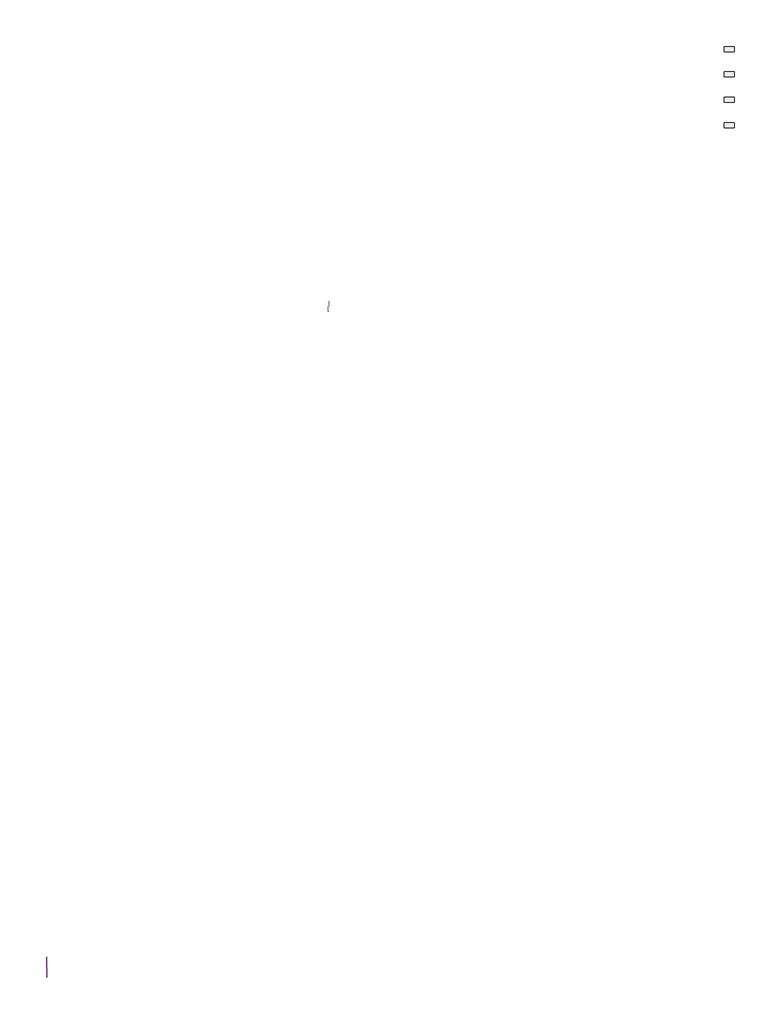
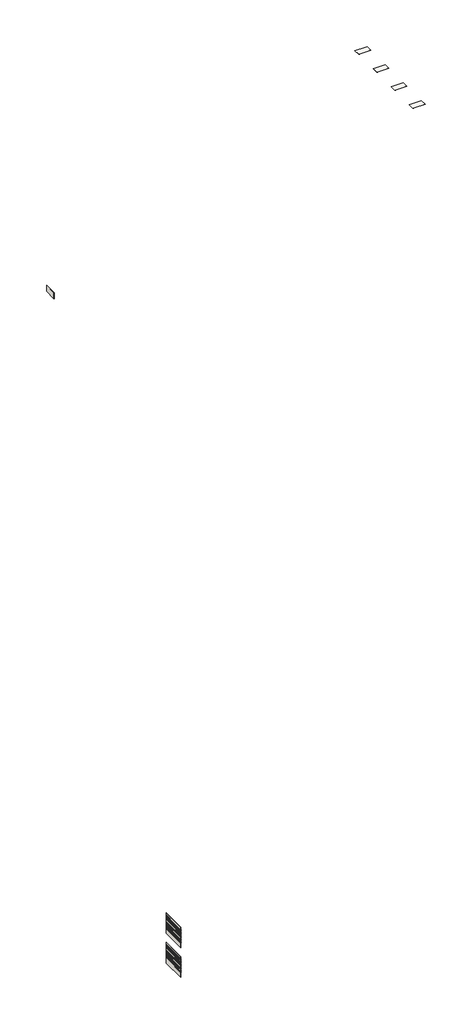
# One storey: 24 proxies, 4 slabs, 3 walls.
"""IFC4 building model written with IfcOpenShell, lengths in millimetres."""

import ifcopenshell
import ifcopenshell.guid

model = None  # the IFC model being written
_history = None  # IfcOwnerHistory: only IFC2X3 demands one
_inside = {}  # id of a spatial element -> (the spatial element, [elements in it])
_under = {}  # id of a project, library or spatial element -> (it, [spatial elements below it])
_declared = {}  # id of a project -> (the project, [libraries it declares])
_typed = {}  # id of a type object -> (the type object, [elements of that type])
_made_of = {}  # id of a material, layer set ... -> (it, [elements and type objects made of it])


def new_model(schema):
    """Start an empty IFC model of exactly this schema.

    Asked for "IFC4X3", IfcOpenShell would pick the latest addendum, in which some entities
    have other attributes; the version numbers below select the first issue.
    IFC2X3 requires an IfcOwnerHistory on every rooted entity: one is made here for all.
    """
    global model, _history
    if schema == "IFC4X3":
        model = ifcopenshell.file(schema_version=(4, 3, 0, 0))
    else:
        model = ifcopenshell.file(schema=schema)
    _inside.clear()
    _under.clear()
    _declared.clear()
    _typed.clear()
    _made_of.clear()
    _history = None
    if model.schema == "IFC2X3":
        org = make("IfcOrganization", Name="unknown")
        user = make(
            "IfcPersonAndOrganization",
            ThePerson=make("IfcPerson", FamilyName="unknown"),
            TheOrganization=org,
        )
        app = make(
            "IfcApplication",
            ApplicationDeveloper=org,
            Version="unknown",
            ApplicationFullName="unknown",
            ApplicationIdentifier="unknown",
        )
        _history = make(
            "IfcOwnerHistory",
            OwningUser=user,
            OwningApplication=app,
            ChangeAction="ADDED",
            CreationDate=0,
        )
    return model


def make(cls, **values):
    """One entity of the class cls with the attributes given. An attribute that is None is left unset."""
    return model.create_entity(
        cls, **{name: value for name, value in values.items() if value is not None}
    )


def rooted(cls, **values):
    """An entity with a GlobalId (a new one), such as an element, a storey or a relation."""
    return make(cls, GlobalId=ifcopenshell.guid.new(), OwnerHistory=_history, **values)


def si_unit(unit_type, name, prefix=None):
    """IfcSIUnit, for example si_unit("LENGTHUNIT", "METRE", prefix="MILLI")."""
    return make("IfcSIUnit", UnitType=unit_type, Prefix=prefix, Name=name)


def assignment(units):
    """IfcUnitAssignment: the units of a project."""
    return None if units is None else make("IfcUnitAssignment", Units=units)


def point(xyz):
    """IfcCartesianPoint."""
    return None if xyz is None else make("IfcCartesianPoint", Coordinates=xyz)


def direction(xyz):
    """IfcDirection."""
    return None if xyz is None else make("IfcDirection", DirectionRatios=xyz)


def frame(location, z_axis=None, x_axis=None):
    """IfcAxis2Placement3D, a coordinate frame: its origin and axes. An axis left out is left unset."""
    return make(
        "IfcAxis2Placement3D",
        Location=point(location),
        Axis=direction(z_axis),
        RefDirection=direction(x_axis),
    )


def origin():
    """The frame at (0, 0, 0) with its axes left unset."""
    return frame((0.0, 0.0, 0.0))


def place(relative_to, where):
    """IfcLocalPlacement: puts the frame where relative to a parent placement (None: the world)."""
    return make(
        "IfcLocalPlacement", PlacementRelTo=relative_to, RelativePlacement=where
    )


def context(
    kind, dimensions, precision=None, world=None, true_north=None, identifier=None
):
    """IfcGeometricRepresentationContext, for example the 3D "Model" context."""
    return make(
        "IfcGeometricRepresentationContext",
        ContextIdentifier=identifier,
        ContextType=kind,
        CoordinateSpaceDimension=dimensions,
        Precision=precision,
        WorldCoordinateSystem=world,
        TrueNorth=true_north,
    )


def project(units=None, contexts=None):
    """IfcProject with its units and contexts."""
    return rooted(
        "IfcProject",
        Name="project",
        RepresentationContexts=contexts,
        UnitsInContext=assignment(units),
    )


def spatial(cls, under=None, at=None, **own):
    """A site, building, storey or space (cls), placed at a placement, below another one or the project."""
    s = rooted(cls, ObjectPlacement=at, **own)
    if under is not None:
        _under.setdefault(under.id(), (under, []))[1].append(s)
    return s


def polyline(points):
    """IfcPolyline through the points."""
    return make("IfcPolyline", Points=[point(p) for p in points])


def outline(outer, holes=None, kind="AREA"):
    """IfcArbitraryClosedProfileDef: a profile drawn as a closed curve; with holes, ...WithVoids."""
    if holes is None:
        return make("IfcArbitraryClosedProfileDef", ProfileType=kind, OuterCurve=outer)
    return make(
        "IfcArbitraryProfileDefWithVoids",
        ProfileType=kind,
        OuterCurve=outer,
        InnerCurves=holes,
    )


def extrude(swept, where, along, depth):
    """IfcExtrudedAreaSolid: the profile swept, set in the frame where, extruded along a direction by depth."""
    return make(
        "IfcExtrudedAreaSolid",
        SweptArea=swept,
        Position=where,
        ExtrudedDirection=direction(along),
        Depth=depth,
    )


def shape(context_of_items, identifier, shape_type, items):
    """IfcShapeRepresentation: the items that make up one representation, for example the "Body"."""
    return make(
        "IfcShapeRepresentation",
        ContextOfItems=context_of_items,
        RepresentationIdentifier=identifier,
        RepresentationType=shape_type,
        Items=items,
    )


def made_of(thing, what):
    """Note that an element or type object is made of a material, layer set ...; save() writes the relation."""
    if what is not None:
        _made_of.setdefault(what.id(), (what, []))[1].append(thing)
    return thing


def element(
    cls,
    number,
    at=None,
    inside=None,
    cuts=None,
    type_object=None,
    material=None,
    context=None,
    identifier="Body",
    shape_type=None,
    held_by="IfcProductDefinitionShape",
    body=None,
    shapes=None,
    **own,
):
    """One element of the class cls, such as IfcWall. Its Tag is "e" and its number.

    at: its placement. inside: the storey or other place that contains it. cuts: it is an
    opening in that element (IfcRelVoidsElement). A single representation is given by context,
    identifier, shape_type and body (its items); several are given by shapes. held_by: the class
    of the entity that holds the representations. save() writes the other relations.
    """
    e = rooted(cls, Tag="e%d" % number, ObjectPlacement=at, **own)
    if body is not None:
        shapes = [shape(context, identifier, shape_type, body)]
    if shapes is not None:
        e.Representation = make(held_by, Representations=shapes)
    if inside is not None:
        _inside.setdefault(inside.id(), (inside, []))[1].append(e)
    if cuts is not None:
        rooted(
            "IfcRelVoidsElement", RelatingBuildingElement=cuts, RelatedOpeningElement=e
        )
    if type_object is not None:
        _typed.setdefault(type_object.id(), (type_object, []))[1].append(e)
    return made_of(e, material)


def aggregate(whole, parts):
    """IfcRelAggregates: a whole, such as a stair, and the parts it consists of."""
    return rooted("IfcRelAggregates", RelatingObject=whole, RelatedObjects=parts)


def save(model, path):
    """Write the relations noted so far, then the file.

    IfcRelAggregates (storeys below a building ...), IfcRelContainedInSpatialStructure (elements
    in a storey), IfcRelDefinesByType, IfcRelAssociatesMaterial and IfcRelDeclares: one each for
    every whole, place, type object, material and project.
    """
    for whole, parts in _under.values():
        aggregate(whole, parts)
    for where, things in _inside.values():
        rooted(
            "IfcRelContainedInSpatialStructure",
            RelatedElements=things,
            RelatingStructure=where,
        )
    for kind, things in _typed.values():
        rooted("IfcRelDefinesByType", RelatedObjects=things, RelatingType=kind)
    for what, things in _made_of.values():
        rooted("IfcRelAssociatesMaterial", RelatedObjects=things, RelatingMaterial=what)
    for by, libraries in _declared.values():
        rooted("IfcRelDeclares", RelatingContext=by, RelatedDefinitions=libraries)
    model.write(path)


model = new_model("IFC4")

# Units and contexts
model_context = context("Model", 3, world=origin())
ifc_project = project(units=[si_unit("LENGTHUNIT", "METRE", prefix="MILLI")], contexts=[model_context])

# Site, building, storey
site = spatial("IfcSite", under=ifc_project)
building = spatial("IfcBuilding", under=site)
storey = spatial("IfcBuildingStorey", under=building, Name="METALLIZED Style", Elevation=12000.0)

# Proxies
placement = place(None, origin())
element("IfcBuildingElementProxy", 1, Name="Cesantoni_Cascata_30x6_Sand_Mate", ObjectType="Cesantoni_Cascata_30x6_Sand_Mate", at=placement, inside=storey, context=model_context, shape_type="SweptSolid", body=[
    extrude(outline(polyline([(13564.1233813, -41360.6781102), (13594.1233813, -41379.6781102), (13581.9750312, -41379.6781102), (13564.1233813, -41368.3720653), (13546.2717314, -41379.6781102), (13534.1233813, -41379.6781102), (13564.1233813, -41360.6781102)])), frame((0.0, -54356.7282789, 0.0), z_axis=(0.0, 1.0, 0.0), x_axis=(0.0, 0.0, 1.0)), (0.0, 0.0, 1.0), 1200.0),
])
element("IfcBuildingElementProxy", 2, Name="Cesantoni_Cascata_30x6_Sand_Mate", ObjectType="Cesantoni_Cascata_30x6_Sand_Mate", at=placement, inside=storey, context=model_context, shape_type="SweptSolid", body=[
    extrude(outline(polyline([(13504.1233813, -41360.6781102), (13534.1233813, -41379.6781102), (13521.9750312, -41379.6781102), (13504.1233813, -41368.3720653), (13486.2717314, -41379.6781102), (13474.1233813, -41379.6781102), (13504.1233813, -41360.6781102)])), frame((0.0, -54356.7282789, 0.0), z_axis=(0.0, 1.0, 0.0), x_axis=(0.0, 0.0, 1.0)), (0.0, 0.0, 1.0), 1200.0),
])
element("IfcBuildingElementProxy", 3, Name="Cesantoni_Cascata_30x6_Sand_Mate", ObjectType="Cesantoni_Cascata_30x6_Sand_Mate", at=placement, inside=storey, context=model_context, shape_type="SweptSolid", body=[
    extrude(outline(polyline([(13384.1233813, -41360.6781102), (13414.1233813, -41379.6781102), (13401.9750312, -41379.6781102), (13384.1233813, -41368.3720653), (13366.2717314, -41379.6781102), (13354.1233813, -41379.6781102), (13384.1233813, -41360.6781102)])), frame((0.0, -54356.7282789, 0.0), z_axis=(0.0, 1.0, 0.0), x_axis=(0.0, 0.0, 1.0)), (0.0, 0.0, 1.0), 1200.0),
])
element("IfcBuildingElementProxy", 4, Name="Cesantoni_Cascata_30x6_Sand_Mate", ObjectType="Cesantoni_Cascata_30x6_Sand_Mate", at=placement, inside=storey, context=model_context, shape_type="SweptSolid", body=[
    extrude(outline(polyline([(13444.1233813, -41360.6781102), (13474.1233813, -41379.6781102), (13461.9750312, -41379.6781102), (13444.1233813, -41368.3720653), (13426.2717314, -41379.6781102), (13414.1233813, -41379.6781102), (13444.1233813, -41360.6781102)])), frame((0.0, -54356.7282789, 0.0), z_axis=(0.0, 1.0, 0.0), x_axis=(0.0, 0.0, 1.0)), (0.0, 0.0, 1.0), 1200.0),
])
element("IfcBuildingElementProxy", 5, Name="Cesantoni_Cascata_30x6_Sand_Mate", ObjectType="Cesantoni_Cascata_30x6_Sand_Mate", at=placement, inside=storey, context=model_context, shape_type="SweptSolid", body=[
    extrude(outline(polyline([(13144.1233813, -41360.6781102), (13174.1233813, -41379.6781102), (13161.9750312, -41379.6781102), (13144.1233813, -41368.3720653), (13126.2717314, -41379.6781102), (13114.1233813, -41379.6781102), (13144.1233813, -41360.6781102)])), frame((0.0, -54356.7282789, 0.0), z_axis=(0.0, 1.0, 0.0), x_axis=(0.0, 0.0, 1.0)), (0.0, 0.0, 1.0), 1200.0),
])
element("IfcBuildingElementProxy", 6, Name="Cesantoni_Cascata_30x6_Sand_Mate", ObjectType="Cesantoni_Cascata_30x6_Sand_Mate", at=placement, inside=storey, context=model_context, shape_type="SweptSolid", body=[
    extrude(outline(polyline([(13204.1233813, -41360.6781102), (13234.1233813, -41379.6781102), (13221.9750312, -41379.6781102), (13204.1233813, -41368.3720653), (13186.2717314, -41379.6781102), (13174.1233813, -41379.6781102), (13204.1233813, -41360.6781102)])), frame((0.0, -54356.7282789, 0.0), z_axis=(0.0, 1.0, 0.0), x_axis=(0.0, 0.0, 1.0)), (0.0, 0.0, 1.0), 1200.0),
])
element("IfcBuildingElementProxy", 7, Name="Cesantoni_Cascata_30x6_Sand_Mate", ObjectType="Cesantoni_Cascata_30x6_Sand_Mate", at=placement, inside=storey, context=model_context, shape_type="SweptSolid", body=[
    extrude(outline(polyline([(13324.1233813, -41360.6781102), (13354.1233813, -41379.6781102), (13341.9750312, -41379.6781102), (13324.1233813, -41368.3720653), (13306.2717314, -41379.6781102), (13294.1233813, -41379.6781102), (13324.1233813, -41360.6781102)])), frame((0.0, -54356.7282789, 0.0), z_axis=(0.0, 1.0, 0.0), x_axis=(0.0, 0.0, 1.0)), (0.0, 0.0, 1.0), 1200.0),
])
element("IfcBuildingElementProxy", 8, Name="Cesantoni_Cascata_30x6_Sand_Mate", ObjectType="Cesantoni_Cascata_30x6_Sand_Mate", at=placement, inside=storey, context=model_context, shape_type="SweptSolid", body=[
    extrude(outline(polyline([(13264.1233813, -41360.6781102), (13294.1233813, -41379.6781102), (13281.9750312, -41379.6781102), (13264.1233813, -41368.3720653), (13246.2717314, -41379.6781102), (13234.1233813, -41379.6781102), (13264.1233813, -41360.6781102)])), frame((0.0, -54356.7282789, 0.0), z_axis=(0.0, 1.0, 0.0), x_axis=(0.0, 0.0, 1.0)), (0.0, 0.0, 1.0), 1200.0),
])
element("IfcBuildingElementProxy", 9, Name="Cesantoni_Cascata_30x6_Sand_Mate", ObjectType="Cesantoni_Cascata_30x6_Sand_Mate", at=placement, inside=storey, context=model_context, shape_type="SweptSolid", body=[
    extrude(outline(polyline([(13084.1233813, -41360.6781102), (13114.1233813, -41379.6781102), (13101.9750312, -41379.6781102), (13084.1233813, -41368.3720653), (13066.2717314, -41379.6781102), (13054.1233813, -41379.6781102), (13084.1233813, -41360.6781102)])), frame((0.0, -54356.7282789, 0.0), z_axis=(0.0, 1.0, 0.0), x_axis=(0.0, 0.0, 1.0)), (0.0, 0.0, 1.0), 1200.0),
])
element("IfcBuildingElementProxy", 10, Name="Cesantoni_Cascata_30x6_Sand_Mate", ObjectType="Cesantoni_Cascata_30x6_Sand_Mate", at=placement, inside=storey, context=model_context, shape_type="SweptSolid", body=[
    extrude(outline(polyline([(13024.1233813, -41360.6781102), (13054.1233813, -41379.6781102), (13041.9750312, -41379.6781102), (13024.1233813, -41368.3720653), (13006.2717314, -41379.6781102), (12994.1233813, -41379.6781102), (13024.1233813, -41360.6781102)])), frame((0.0, -54356.7282789, 0.0), z_axis=(0.0, 1.0, 0.0), x_axis=(0.0, 0.0, 1.0)), (0.0, 0.0, 1.0), 1200.0),
])
element("IfcBuildingElementProxy", 11, Name="Cesantoni_Cascata_30x6_Sand_Mate", ObjectType="Cesantoni_Cascata_30x6_Sand_Mate", at=placement, inside=storey, context=model_context, shape_type="SweptSolid", body=[
    extrude(outline(polyline([(12904.1233813, -41360.6781102), (12934.1233813, -41379.6781102), (12921.9750312, -41379.6781102), (12904.1233813, -41368.3720653), (12886.2717314, -41379.6781102), (12874.1233813, -41379.6781102), (12904.1233813, -41360.6781102)])), frame((0.0, -54356.7282789, 0.0), z_axis=(0.0, 1.0, 0.0), x_axis=(0.0, 0.0, 1.0)), (0.0, 0.0, 1.0), 1200.0),
])
element("IfcBuildingElementProxy", 12, Name="Cesantoni_Cascata_30x6_Sand_Mate", ObjectType="Cesantoni_Cascata_30x6_Sand_Mate", at=placement, inside=storey, context=model_context, shape_type="SweptSolid", body=[
    extrude(outline(polyline([(12964.1233813, -41360.6781102), (12994.1233813, -41379.6781102), (12981.9750312, -41379.6781102), (12964.1233813, -41368.3720653), (12946.2717314, -41379.6781102), (12934.1233813, -41379.6781102), (12964.1233813, -41360.6781102)])), frame((0.0, -54356.7282789, 0.0), z_axis=(0.0, 1.0, 0.0), x_axis=(0.0, 0.0, 1.0)), (0.0, 0.0, 1.0), 1200.0),
])
element("IfcBuildingElementProxy", 13, Name="Cesantoni_Cascata_30x6_Smoke_Mate", ObjectType="Cesantoni_Cascata_30x6_Smoke_Mate", at=placement, inside=storey, context=model_context, shape_type="SweptSolid", body=[
    extrude(outline(polyline([(15064.1233813, -41360.6781102), (15094.1233813, -41379.6781102), (15081.9750312, -41379.6781102), (15064.1233813, -41368.3720653), (15046.2717314, -41379.6781102), (15034.1233813, -41379.6781102), (15064.1233813, -41360.6781102)])), frame((0.0, -54356.7282789, 0.0), z_axis=(0.0, 1.0, 0.0), x_axis=(0.0, 0.0, 1.0)), (0.0, 0.0, 1.0), 1200.0),
])
element("IfcBuildingElementProxy", 14, Name="Cesantoni_Cascata_30x6_Smoke_Mate", ObjectType="Cesantoni_Cascata_30x6_Smoke_Mate", at=placement, inside=storey, context=model_context, shape_type="SweptSolid", body=[
    extrude(outline(polyline([(15004.1233813, -41360.6781102), (15034.1233813, -41379.6781102), (15021.9750312, -41379.6781102), (15004.1233813, -41368.3720653), (14986.2717314, -41379.6781102), (14974.1233813, -41379.6781102), (15004.1233813, -41360.6781102)])), frame((0.0, -54356.7282789, 0.0), z_axis=(0.0, 1.0, 0.0), x_axis=(0.0, 0.0, 1.0)), (0.0, 0.0, 1.0), 1200.0),
])
element("IfcBuildingElementProxy", 15, Name="Cesantoni_Cascata_30x6_Smoke_Mate", ObjectType="Cesantoni_Cascata_30x6_Smoke_Mate", at=placement, inside=storey, context=model_context, shape_type="SweptSolid", body=[
    extrude(outline(polyline([(14884.1233813, -41360.6781102), (14914.1233813, -41379.6781102), (14901.9750312, -41379.6781102), (14884.1233813, -41368.3720653), (14866.2717314, -41379.6781102), (14854.1233813, -41379.6781102), (14884.1233813, -41360.6781102)])), frame((0.0, -54356.7282789, 0.0), z_axis=(0.0, 1.0, 0.0), x_axis=(0.0, 0.0, 1.0)), (0.0, 0.0, 1.0), 1200.0),
])
element("IfcBuildingElementProxy", 16, Name="Cesantoni_Cascata_30x6_Smoke_Mate", ObjectType="Cesantoni_Cascata_30x6_Smoke_Mate", at=placement, inside=storey, context=model_context, shape_type="SweptSolid", body=[
    extrude(outline(polyline([(14944.1233813, -41360.6781102), (14974.1233813, -41379.6781102), (14961.9750312, -41379.6781102), (14944.1233813, -41368.3720653), (14926.2717314, -41379.6781102), (14914.1233813, -41379.6781102), (14944.1233813, -41360.6781102)])), frame((0.0, -54356.7282789, 0.0), z_axis=(0.0, 1.0, 0.0), x_axis=(0.0, 0.0, 1.0)), (0.0, 0.0, 1.0), 1200.0),
])
element("IfcBuildingElementProxy", 17, Name="Cesantoni_Cascata_30x6_Smoke_Mate", ObjectType="Cesantoni_Cascata_30x6_Smoke_Mate", at=placement, inside=storey, context=model_context, shape_type="SweptSolid", body=[
    extrude(outline(polyline([(14644.1233813, -41360.6781102), (14674.1233813, -41379.6781102), (14661.9750312, -41379.6781102), (14644.1233813, -41368.3720653), (14626.2717314, -41379.6781102), (14614.1233813, -41379.6781102), (14644.1233813, -41360.6781102)])), frame((0.0, -54356.7282789, 0.0), z_axis=(0.0, 1.0, 0.0), x_axis=(0.0, 0.0, 1.0)), (0.0, 0.0, 1.0), 1200.0),
])
element("IfcBuildingElementProxy", 18, Name="Cesantoni_Cascata_30x6_Smoke_Mate", ObjectType="Cesantoni_Cascata_30x6_Smoke_Mate", at=placement, inside=storey, context=model_context, shape_type="SweptSolid", body=[
    extrude(outline(polyline([(14704.1233813, -41360.6781102), (14734.1233813, -41379.6781102), (14721.9750312, -41379.6781102), (14704.1233813, -41368.3720653), (14686.2717314, -41379.6781102), (14674.1233813, -41379.6781102), (14704.1233813, -41360.6781102)])), frame((0.0, -54356.7282789, 0.0), z_axis=(0.0, 1.0, 0.0), x_axis=(0.0, 0.0, 1.0)), (0.0, 0.0, 1.0), 1200.0),
])
element("IfcBuildingElementProxy", 19, Name="Cesantoni_Cascata_30x6_Smoke_Mate", ObjectType="Cesantoni_Cascata_30x6_Smoke_Mate", at=placement, inside=storey, context=model_context, shape_type="SweptSolid", body=[
    extrude(outline(polyline([(14824.1233813, -41360.6781102), (14854.1233813, -41379.6781102), (14841.9750312, -41379.6781102), (14824.1233813, -41368.3720653), (14806.2717314, -41379.6781102), (14794.1233813, -41379.6781102), (14824.1233813, -41360.6781102)])), frame((0.0, -54356.7282789, 0.0), z_axis=(0.0, 1.0, 0.0), x_axis=(0.0, 0.0, 1.0)), (0.0, 0.0, 1.0), 1200.0),
])
element("IfcBuildingElementProxy", 20, Name="Cesantoni_Cascata_30x6_Smoke_Mate", ObjectType="Cesantoni_Cascata_30x6_Smoke_Mate", at=placement, inside=storey, context=model_context, shape_type="SweptSolid", body=[
    extrude(outline(polyline([(14764.1233813, -41360.6781102), (14794.1233813, -41379.6781102), (14781.9750312, -41379.6781102), (14764.1233813, -41368.3720653), (14746.2717314, -41379.6781102), (14734.1233813, -41379.6781102), (14764.1233813, -41360.6781102)])), frame((0.0, -54356.7282789, 0.0), z_axis=(0.0, 1.0, 0.0), x_axis=(0.0, 0.0, 1.0)), (0.0, 0.0, 1.0), 1200.0),
])
element("IfcBuildingElementProxy", 21, Name="Cesantoni_Cascata_30x6_Smoke_Mate", ObjectType="Cesantoni_Cascata_30x6_Smoke_Mate", at=placement, inside=storey, context=model_context, shape_type="SweptSolid", body=[
    extrude(outline(polyline([(14584.1233813, -41360.6781102), (14614.1233813, -41379.6781102), (14601.9750312, -41379.6781102), (14584.1233813, -41368.3720653), (14566.2717314, -41379.6781102), (14554.1233813, -41379.6781102), (14584.1233813, -41360.6781102)])), frame((0.0, -54356.7282789, 0.0), z_axis=(0.0, 1.0, 0.0), x_axis=(0.0, 0.0, 1.0)), (0.0, 0.0, 1.0), 1200.0),
])
element("IfcBuildingElementProxy", 22, Name="Cesantoni_Cascata_30x6_Smoke_Mate", ObjectType="Cesantoni_Cascata_30x6_Smoke_Mate", at=placement, inside=storey, context=model_context, shape_type="SweptSolid", body=[
    extrude(outline(polyline([(14524.1233813, -41360.6781102), (14554.1233813, -41379.6781102), (14541.9750312, -41379.6781102), (14524.1233813, -41368.3720653), (14506.2717314, -41379.6781102), (14494.1233813, -41379.6781102), (14524.1233813, -41360.6781102)])), frame((0.0, -54356.7282789, 0.0), z_axis=(0.0, 1.0, 0.0), x_axis=(0.0, 0.0, 1.0)), (0.0, 0.0, 1.0), 1200.0),
])
element("IfcBuildingElementProxy", 23, Name="Cesantoni_Cascata_30x6_Smoke_Mate", ObjectType="Cesantoni_Cascata_30x6_Smoke_Mate", at=placement, inside=storey, context=model_context, shape_type="SweptSolid", body=[
    extrude(outline(polyline([(14404.1233813, -41360.6781102), (14434.1233813, -41379.6781102), (14421.9750312, -41379.6781102), (14404.1233813, -41368.3720653), (14386.2717314, -41379.6781102), (14374.1233813, -41379.6781102), (14404.1233813, -41360.6781102)])), frame((0.0, -54356.7282789, 0.0), z_axis=(0.0, 1.0, 0.0), x_axis=(0.0, 0.0, 1.0)), (0.0, 0.0, 1.0), 1200.0),
])
element("IfcBuildingElementProxy", 24, Name="Cesantoni_Cascata_30x6_Smoke_Mate", ObjectType="Cesantoni_Cascata_30x6_Smoke_Mate", at=placement, inside=storey, context=model_context, shape_type="SweptSolid", body=[
    extrude(outline(polyline([(14464.1233813, -41360.6781102), (14494.1233813, -41379.6781102), (14481.9750312, -41379.6781102), (14464.1233813, -41368.3720653), (14446.2717314, -41379.6781102), (14434.1233813, -41379.6781102), (14464.1233813, -41360.6781102)])), frame((0.0, -54356.7282789, 0.0), z_axis=(0.0, 1.0, 0.0), x_axis=(0.0, 0.0, 1.0)), (0.0, 0.0, 1.0), 1200.0),
])

# Slabs
element("IfcSlab", 25, ObjectType="Cesantoni_Friezze_29.5x58_Beige_Metalizado", at=placement, inside=storey, context=model_context, shape_type="SweptSolid", body=[
    extrude(outline(polyline([(-646.1781102, 784.4826442), (-646.1781102, 485.4826442), (-1230.1781102, 485.4826442), (-1230.1781102, 784.4826442), (-646.1781102, 784.4826442)])), frame((0.0, 0.0, 11991.0), z_axis=(0.0, 0.0, 1.0), x_axis=(1.0, 0.0, 0.0)), (0.0, 0.0, 1.0), 9.0),
])
element("IfcSlab", 26, ObjectType="Cesantoni_Friezze_29.5x58_Café_Metalizado", at=placement, inside=storey, context=model_context, shape_type="SweptSolid", body=[
    extrude(outline(polyline([(-646.1781102, -715.5173558), (-646.1781102, -1014.5173558), (-1230.1781102, -1014.5173558), (-1230.1781102, -715.5173558), (-646.1781102, -715.5173558)])), frame((0.0, 0.0, 11991.0), z_axis=(0.0, 0.0, 1.0), x_axis=(1.0, 0.0, 0.0)), (0.0, 0.0, 1.0), 9.0),
])
element("IfcSlab", 27, ObjectType="Cesantoni_Friezze_29.5x58_Grafito_Metalizado", at=placement, inside=storey, context=model_context, shape_type="SweptSolid", body=[
    extrude(outline(polyline([(-646.1781102, -2215.5173558), (-646.1781102, -2514.5173558), (-1230.1781102, -2514.5173558), (-1230.1781102, -2215.5173558), (-646.1781102, -2215.5173558)])), frame((0.0, 0.0, 11991.0), z_axis=(0.0, 0.0, 1.0), x_axis=(1.0, 0.0, 0.0)), (0.0, 0.0, 1.0), 9.0),
])
element("IfcSlab", 28, ObjectType="Cesantoni_Friezze_29.5x58_Blanco_Metalizado", at=placement, inside=storey, context=model_context, shape_type="SweptSolid", body=[
    extrude(outline(polyline([(-646.1781102, -3715.5173558), (-646.1781102, -4014.5173558), (-1230.1781102, -4014.5173558), (-1230.1781102, -3715.5173558), (-646.1781102, -3715.5173558)])), frame((0.0, 0.0, 11991.0), z_axis=(0.0, 0.0, 1.0), x_axis=(1.0, 0.0, 0.0)), (0.0, 0.0, 1.0), 9.0),
])

# Walls
element("IfcWall", 29, ObjectType="Cesantoni_Cuori_30x60_RECT_Cuori_Mate", at=placement, inside=storey, context=model_context, shape_type="SweptSolid", body=[
    extrude(outline(polyline([(-24674.55447, -14310.0172176), (-24674.55447, -14912.0172176), (-24684.55447, -14912.0172176), (-24684.55447, -14310.0172176), (-24674.55447, -14310.0172176)])), frame((0.0, 0.0, 17198.0), z_axis=(0.0, 0.0, 1.0), x_axis=(1.0, 0.0, 0.0)), (0.0, 0.0, 1.0), 302.0),
])
element("IfcWall", 30, ObjectType="Muro básico:muro", at=placement, inside=storey, context=model_context, shape_type="SweptSolid", body=[
    extrude(outline(polyline([(-41379.6781102, -53156.7282789), (-41379.6781102, -54356.7282789), (-41380.6781102, -54356.7282789), (-41380.6781102, -53156.7282789), (-41379.6781102, -53156.7282789)])), frame((0.0, 0.0, 12654.4965944), z_axis=(0.0, 0.0, 1.0), x_axis=(1.0, 0.0, 0.0)), (0.0, 0.0, 1.0), 1039.6267869),
])
element("IfcWall", 31, ObjectType="Muro básico:muro", at=placement, inside=storey, context=model_context, shape_type="SweptSolid", body=[
    extrude(outline(polyline([(-41379.6781102, -53156.7282789), (-41379.6781102, -54356.7282789), (-41380.6781102, -54356.7282789), (-41380.6781102, -53156.7282789), (-41379.6781102, -53156.7282789)])), frame((0.0, 0.0, 14154.4965944), z_axis=(0.0, 0.0, 1.0), x_axis=(1.0, 0.0, 0.0)), (0.0, 0.0, 1.0), 1039.6267869),
])

save(model, "model.ifc")
